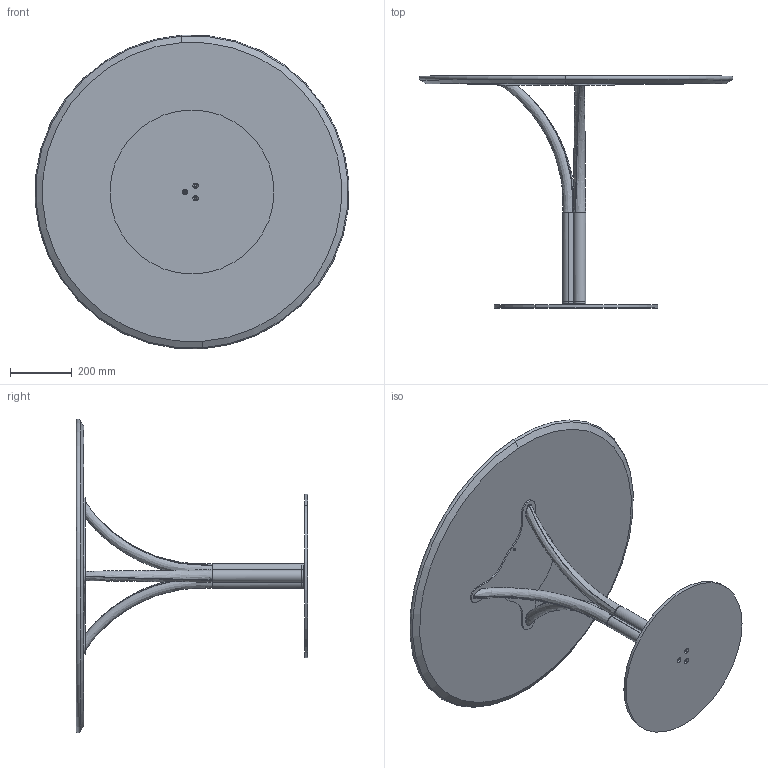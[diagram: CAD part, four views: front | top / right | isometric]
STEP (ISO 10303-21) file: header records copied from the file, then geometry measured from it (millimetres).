
FILE_DESCRIPTION (( 'STEP AP203' ), '1' );
FILE_NAME ('DB30B.STEP', '2024-08-08T08:16:55', ( '' ), ( '' ), 'SwSTEP 2.0', 'SolidWorks 2022', '' );
FILE_SCHEMA (( 'CONFIG_CONTROL_DESIGN' ));
Length unit declared in the file: millimetre
Products named in the file (8): DOD000000_01-01-poggiapiano; BOMB0001-00-PIANO LEGNO CON INCASSO Ø100_MDF per Ø100cm; DOD000000_02-00-Gamba curvata per DODO''_Default<A macchina>; Assieme piani incassatti ceramica_Ø100cm; DB30B; DOD000000-01-DODO BASE ; K1XCMXX-00-Piani Rotondi in ceramica_D.1000 SOLO CERAMICA SP.6mm; CBS000000BAS-00-BISTRO PIASTRA INFERIORE_D.530
Assembly tree (9 placements, depth 3):
  DB30B
    CBS000000BAS-00-BISTRO PIASTRA INFERIORE_D.530
    DOD000000-01-DODO BASE 
      DOD000000_02-00-Gamba curvata per DODO''_Default<A macchina>  x3
      DOD000000_01-01-poggiapiano
    Assieme piani incassatti ceramica_Ø100cm
      BOMB0001-00-PIANO LEGNO CON INCASSO Ø100_MDF per Ø100cm
      K1XCMXX-00-Piani Rotondi in ceramica_D.1000 SOLO CERAMICA SP.6mm
Bounding box: 1014.63 x 750 x 1014.63 mm (x, y, z)
Volume: 22819577.7 mm3; surface area: 4404191.5 mm2
Topology: 10 solids, 10 shells, 110 faces, 259 edges, 170 vertices
Faces by surface type: cylinder 61, plane 27, bspline 12, cone 8, torus 2
Entity records: 6527 total; most frequent: CARTESIAN_POINT 3701, DIRECTION 447, ORIENTED_EDGE 374, AXIS2_PLACEMENT_3D 188, EDGE_CURVE 187, VERTEX_POINT 122, EDGE_LOOP 101, CIRCLE 100
